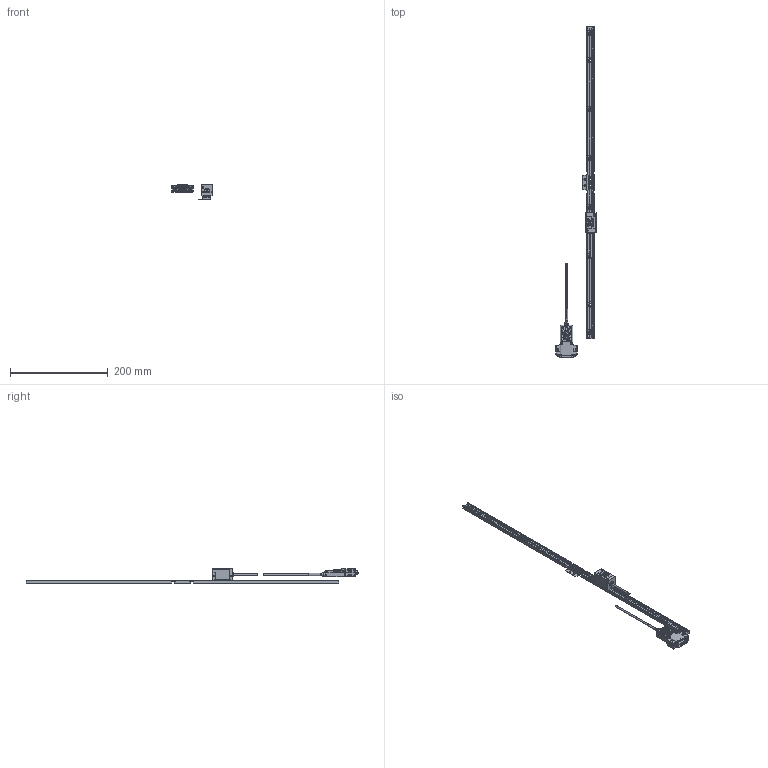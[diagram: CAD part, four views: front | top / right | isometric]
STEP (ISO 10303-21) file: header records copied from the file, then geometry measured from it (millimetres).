
FILE_DESCRIPTION(('Creo Elements/Direct Modeling STEP Export'),'2;1');
FILE_NAME('ST1300-600F_G.stp','2022-08-16T10:10:27',(''),(''),'Creo Elements/Direct Modeling STEP processor for AP214 (Solid Model)','Creo Elements/Direct Modeling 18.1I 13-Aug-2016 (C) Parametric Technology GmbH','');
FILE_SCHEMA(('AUTOMOTIVE_DESIGN { 1 0 10303 214 1 1 1 1 }'));
Products named in the file (4): Connector; Scale_600; Detector_Head; ST1300-600F_G
Assembly tree (3 placements, depth 2):
  ST1300-600F_G
    Detector_Head
    Scale_600
    Connector
Bounding box: 83 x 679.1 x 30.1 mm (x, y, z)
Volume: 71743.6 mm3; surface area: 47714.6 mm2
Topology: 2 solids, 6 shells, 3425 faces, 9456 edges, 6177 vertices
Faces by surface type: plane 1628, cylinder 1523, extrusion 134, cone 87, torus 26, bspline 23, revolution 4
Entity records: 114513 total; most frequent: CARTESIAN_POINT 26177, ORIENTED_EDGE 18896, DIRECTION 17979, EDGE_CURVE 9444, VERTEX_POINT 6177, AXIS2_PLACEMENT_3D 6081, VECTOR 5811, LINE 5705
